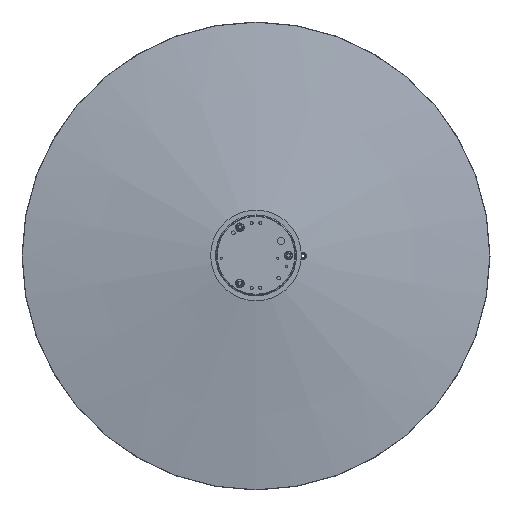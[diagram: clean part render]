
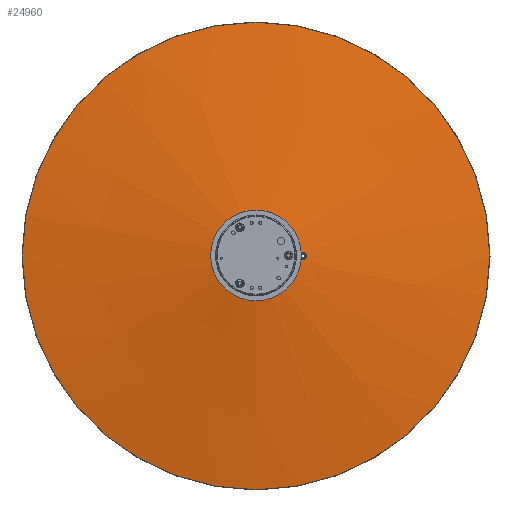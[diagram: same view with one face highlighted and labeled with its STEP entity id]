
A CAD part, top view. The second image highlights one B-rep face of the part: STEP entity #24960.
In plain terms, the highlighted conical face has half-angle 81 degrees and reference radius 325 mm.
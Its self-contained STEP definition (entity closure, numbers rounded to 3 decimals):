
#103=B_SPLINE_CURVE_WITH_KNOTS('',3,(#43272,#43273,#43274,#43275,#43276,
#43277,#43278,#43279,#43280,#43281,#43282),.UNSPECIFIED.,.T.,.F.,(1,1,1,
1,1,1,1,1,1,1,1,1,1,1,1),(-0.012,-0.008,-0.004,
0.,0.004,0.008,0.012,
0.016,0.02,0.024,0.028,
0.031,0.035,0.039,0.043),
 .UNSPECIFIED.);
#6075=CONICAL_SURFACE('',#33728,325.,1.414);
#6364=ORIENTED_EDGE('',*,*,#13298,.T.);
#6365=ORIENTED_EDGE('',*,*,#13299,.F.);
#6366=ORIENTED_EDGE('',*,*,#13297,.F.);
#13297=EDGE_CURVE('',#16817,#16817,#19264,.T.);
#13298=EDGE_CURVE('',#16818,#16818,#19265,.F.);
#13299=EDGE_CURVE('',#16819,#16819,#103,.T.);
#16817=VERTEX_POINT('',#43268);
#16818=VERTEX_POINT('',#43271);
#16819=VERTEX_POINT('',#43283);
#19264=CIRCLE('',#33727,325.);
#19265=CIRCLE('',#33729,17.889);
#20132=EDGE_LOOP('',(#6364));
#20133=EDGE_LOOP('',(#6365));
#20134=EDGE_LOOP('',(#6366));
#22078=FACE_BOUND('',#20132,.T.);
#22079=FACE_BOUND('',#20133,.T.);
#22080=FACE_BOUND('',#20134,.T.);
#24960=ADVANCED_FACE('',(#22078,#22079,#22080),#6075,.T.);
#33727=AXIS2_PLACEMENT_3D('',#43267,#36232,#36233);
#33728=AXIS2_PLACEMENT_3D('',#43269,#36234,#36235);
#33729=AXIS2_PLACEMENT_3D('',#43270,#36236,#36237);
#36232=DIRECTION('',(0.,0.,-1.));
#36233=DIRECTION('',(-1.,0.,0.));
#36234=DIRECTION('',(0.,0.,-1.));
#36235=DIRECTION('',(-1.,0.,0.));
#36236=DIRECTION('',(0.,0.,1.));
#36237=DIRECTION('',(1.,0.,0.));
#43267=CARTESIAN_POINT('',(0.,0.,0.));
#43268=CARTESIAN_POINT('',(-325.,0.,0.));
#43269=CARTESIAN_POINT('',(0.,0.,0.));
#43270=CARTESIAN_POINT('',(0.,0.,48.642));
#43271=CARTESIAN_POINT('',(17.889,0.,48.642));
#43272=CARTESIAN_POINT('',(-5.532,65.062,41.132));
#43273=CARTESIAN_POINT('',(-3.979,61.143,41.773));
#43274=CARTESIAN_POINT('',(-0.061,59.451,42.067));
#43275=CARTESIAN_POINT('',(3.889,61.054,41.789));
#43276=CARTESIAN_POINT('',(5.532,64.934,41.152));
#43277=CARTESIAN_POINT('',(3.981,68.853,40.555));
#43278=CARTESIAN_POINT('',(0.07,70.55,40.308));
#43279=CARTESIAN_POINT('',(-3.892,68.946,40.541));
#43280=CARTESIAN_POINT('',(-5.532,65.062,41.132));
#43281=CARTESIAN_POINT('',(-3.979,61.143,41.773));
#43282=CARTESIAN_POINT('',(-0.061,59.451,42.067));
#43283=CARTESIAN_POINT('',(-3.585,61.514,41.715));
